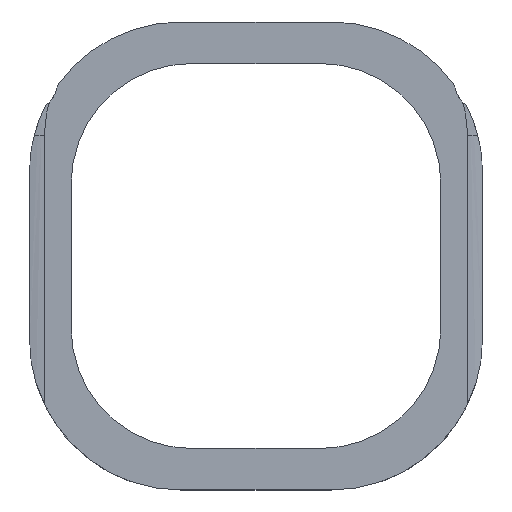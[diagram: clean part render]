
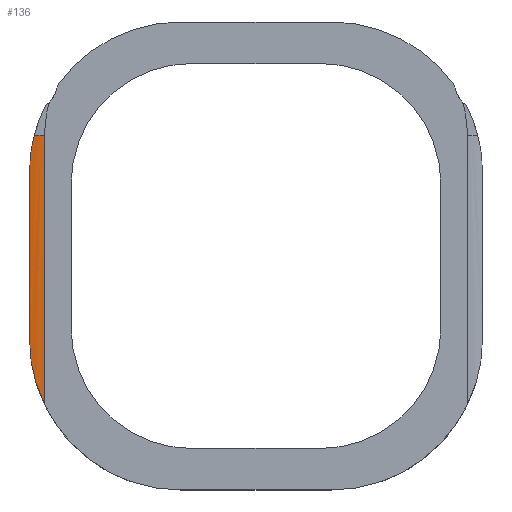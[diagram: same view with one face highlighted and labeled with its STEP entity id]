
A CAD part, top view. The second image highlights one B-rep face of the part: STEP entity #136.
In plain terms, the highlighted cylindrical face has radius 11 mm (diameter 22 mm), a partial arc.
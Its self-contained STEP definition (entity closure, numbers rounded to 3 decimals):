
#21 = EDGE_CURVE('',#22,#24,#26,.T.);
#22 = VERTEX_POINT('',#23);
#23 = CARTESIAN_POINT('',(-30.,9.,27.317));
#24 = VERTEX_POINT('',#25);
#25 = CARTESIAN_POINT('',(-30.,31.,27.317));
#26 = SURFACE_CURVE('',#27,(#31,#43),.PCURVE_S1.);
#27 = LINE('',#28,#29);
#28 = CARTESIAN_POINT('',(-30.,-36.,27.317));
#29 = VECTOR('',#30,1.);
#30 = DIRECTION('',(0.,1.,0.));
#31 = PCURVE('',#32,#37);
#32 = PLANE('',#33);
#33 = AXIS2_PLACEMENT_3D('',#34,#35,#36);
#34 = CARTESIAN_POINT('',(-30.,-11.,26.3));
#35 = DIRECTION('',(1.,0.,0.));
#36 = DIRECTION('',(0.,0.,1.));
#37 = DEFINITIONAL_REPRESENTATION('',(#38),#42);
#38 = LINE('',#39,#40);
#39 = CARTESIAN_POINT('',(1.017,25.));
#40 = VECTOR('',#41,1.);
#41 = DIRECTION('',(0.,-1.));
#42 = ( GEOMETRIC_REPRESENTATION_CONTEXT(2) 
PARAMETRIC_REPRESENTATION_CONTEXT() REPRESENTATION_CONTEXT('2D SPACE',''
  ) );
#43 = PCURVE('',#44,#49);
#44 = CYLINDRICAL_SURFACE('',#45,11.);
#45 = AXIS2_PLACEMENT_3D('',#46,#47,#48);
#46 = CARTESIAN_POINT('',(-28.,-36.,16.5));
#47 = DIRECTION('',(0.,1.,0.));
#48 = DIRECTION('',(0.,-0.,1.));
#49 = DEFINITIONAL_REPRESENTATION('',(#50),#53);
#50 = B_SPLINE_CURVE_WITH_KNOTS('',1,(#51,#52),.UNSPECIFIED.,.F.,.F.,(2,
    2),(42.8,69.2),.PIECEWISE_BEZIER_KNOTS.);
#51 = CARTESIAN_POINT('',(6.1,42.8));
#52 = CARTESIAN_POINT('',(6.1,69.2));
#53 = ( GEOMETRIC_REPRESENTATION_CONTEXT(2) 
PARAMETRIC_REPRESENTATION_CONTEXT() REPRESENTATION_CONTEXT('2D SPACE',''
  ) );
#71 = CYLINDRICAL_SURFACE('',#72,20.);
#72 = AXIS2_PLACEMENT_3D('',#73,#74,#75);
#73 = CARTESIAN_POINT('',(-10.,9.,26.3));
#74 = DIRECTION('',(0.,0.,1.));
#75 = DIRECTION('',(-1.,-0.,0.));
#125 = CYLINDRICAL_SURFACE('',#126,20.);
#126 = AXIS2_PLACEMENT_3D('',#127,#128,#129);
#127 = CARTESIAN_POINT('',(-10.,31.,26.3));
#128 = DIRECTION('',(0.,0.,1.));
#129 = DIRECTION('',(-1.,-0.,0.));
#136 = ADVANCED_FACE('',(#137),#44,.T.);
#137 = FACE_BOUND('',#138,.T.);
#138 = EDGE_LOOP('',(#139,#168,#210,#211,#267));
#139 = ORIENTED_EDGE('',*,*,#140,.T.);
#140 = EDGE_CURVE('',#141,#143,#145,.T.);
#141 = VERTEX_POINT('',#142);
#142 = CARTESIAN_POINT('',(-28.,36.,27.5));
#143 = VERTEX_POINT('',#144);
#144 = CARTESIAN_POINT('',(-29.365,36.,27.415));
#145 = SURFACE_CURVE('',#146,(#151,#157),.PCURVE_S1.);
#146 = CIRCLE('',#147,11.);
#147 = AXIS2_PLACEMENT_3D('',#148,#149,#150);
#148 = CARTESIAN_POINT('',(-28.,36.,16.5));
#149 = DIRECTION('',(0.,-1.,0.));
#150 = DIRECTION('',(0.,0.,1.));
#151 = PCURVE('',#44,#152);
#152 = DEFINITIONAL_REPRESENTATION('',(#153),#156);
#153 = B_SPLINE_CURVE_WITH_KNOTS('',1,(#154,#155),.UNSPECIFIED.,.F.,.F.,
  (2,2),(0.,1.571),.PIECEWISE_BEZIER_KNOTS.);
#154 = CARTESIAN_POINT('',(6.283,72.));
#155 = CARTESIAN_POINT('',(4.712,72.));
#156 = ( GEOMETRIC_REPRESENTATION_CONTEXT(2) 
PARAMETRIC_REPRESENTATION_CONTEXT() REPRESENTATION_CONTEXT('2D SPACE',''
  ) );
#157 = PCURVE('',#158,#163);
#158 = TOROIDAL_SURFACE('',#159,16.,11.);
#159 = AXIS2_PLACEMENT_3D('',#160,#161,#162);
#160 = CARTESIAN_POINT('',(-12.,36.,16.5));
#161 = DIRECTION('',(-0.,-0.,-1.));
#162 = DIRECTION('',(-1.,0.,0.));
#163 = DEFINITIONAL_REPRESENTATION('',(#164),#167);
#164 = B_SPLINE_CURVE_WITH_KNOTS('',1,(#165,#166),.UNSPECIFIED.,.F.,.F.,
  (2,2),(0.,1.571),.PIECEWISE_BEZIER_KNOTS.);
#165 = CARTESIAN_POINT('',(0.,4.712));
#166 = CARTESIAN_POINT('',(0.,6.283));
#167 = ( GEOMETRIC_REPRESENTATION_CONTEXT(2) 
PARAMETRIC_REPRESENTATION_CONTEXT() REPRESENTATION_CONTEXT('2D SPACE',''
  ) );
#168 = ORIENTED_EDGE('',*,*,#169,.F.);
#169 = EDGE_CURVE('',#24,#143,#170,.T.);
#170 = SURFACE_CURVE('',#171,(#182,#196),.PCURVE_S1.);
#171 = B_SPLINE_CURVE_WITH_KNOTS('',5,(#172,#173,#174,#175,#176,#177,
    #178,#179,#180,#181),.UNSPECIFIED.,.F.,.F.,(6,4,6),(0.,
    0.539,1.),.UNSPECIFIED.);
#172 = CARTESIAN_POINT('',(-30.,31.,27.317));
#173 = CARTESIAN_POINT('',(-30.,31.542,27.317));
#174 = CARTESIAN_POINT('',(-29.982,32.084,
    27.32));
#175 = CARTESIAN_POINT('',(-29.945,32.626,
    27.327));
#176 = CARTESIAN_POINT('',(-29.89,33.167,
    27.337));
#177 = CARTESIAN_POINT('',(-29.753,34.168,
    27.36));
#178 = CARTESIAN_POINT('',(-29.677,34.628,
    27.372));
#179 = CARTESIAN_POINT('',(-29.586,35.087,
    27.386));
#180 = CARTESIAN_POINT('',(-29.483,35.544,
    27.4));
#181 = CARTESIAN_POINT('',(-29.365,36.,27.415));
#182 = PCURVE('',#44,#183);
#183 = DEFINITIONAL_REPRESENTATION('',(#184),#195);
#184 = B_SPLINE_CURVE_WITH_KNOTS('',5,(#185,#186,#187,#188,#189,#190,
    #191,#192,#193,#194),.UNSPECIFIED.,.F.,.F.,(6,4,6),(0.,
    0.539,1.),.UNSPECIFIED.);
#185 = CARTESIAN_POINT('',(6.1,67.));
#186 = CARTESIAN_POINT('',(6.1,67.542));
#187 = CARTESIAN_POINT('',(6.102,68.084));
#188 = CARTESIAN_POINT('',(6.105,68.626));
#189 = CARTESIAN_POINT('',(6.111,69.167));
#190 = CARTESIAN_POINT('',(6.123,70.168));
#191 = CARTESIAN_POINT('',(6.13,70.628));
#192 = CARTESIAN_POINT('',(6.138,71.087));
#193 = CARTESIAN_POINT('',(6.148,71.544));
#194 = CARTESIAN_POINT('',(6.159,72.));
#195 = ( GEOMETRIC_REPRESENTATION_CONTEXT(2) 
PARAMETRIC_REPRESENTATION_CONTEXT() REPRESENTATION_CONTEXT('2D SPACE',''
  ) );
#196 = PCURVE('',#125,#197);
#197 = DEFINITIONAL_REPRESENTATION('',(#198),#209);
#198 = B_SPLINE_CURVE_WITH_KNOTS('',5,(#199,#200,#201,#202,#203,#204,
    #205,#206,#207,#208),.UNSPECIFIED.,.F.,.F.,(6,4,6),(0.,
    0.539,1.),.UNSPECIFIED.);
#199 = CARTESIAN_POINT('',(6.283,1.017));
#200 = CARTESIAN_POINT('',(6.256,1.017));
#201 = CARTESIAN_POINT('',(6.229,1.02));
#202 = CARTESIAN_POINT('',(6.202,1.027));
#203 = CARTESIAN_POINT('',(6.175,1.037));
#204 = CARTESIAN_POINT('',(6.124,1.06));
#205 = CARTESIAN_POINT('',(6.101,1.072));
#206 = CARTESIAN_POINT('',(6.077,1.086));
#207 = CARTESIAN_POINT('',(6.054,1.1));
#208 = CARTESIAN_POINT('',(6.031,1.115));
#209 = ( GEOMETRIC_REPRESENTATION_CONTEXT(2) 
PARAMETRIC_REPRESENTATION_CONTEXT() REPRESENTATION_CONTEXT('2D SPACE',''
  ) );
#210 = ORIENTED_EDGE('',*,*,#21,.F.);
#211 = ORIENTED_EDGE('',*,*,#212,.T.);
#212 = EDGE_CURVE('',#22,#213,#215,.T.);
#213 = VERTEX_POINT('',#214);
#214 = CARTESIAN_POINT('',(-28.,0.282,27.5));
#215 = SURFACE_CURVE('',#216,(#231,#249),.PCURVE_S1.);
#216 = B_SPLINE_CURVE_WITH_KNOTS('',7,(#217,#218,#219,#220,#221,#222,
    #223,#224,#225,#226,#227,#228,#229,#230),.UNSPECIFIED.,.F.,.F.,(8,6,
    8),(0.,0.304,1.),.UNSPECIFIED.);
#217 = CARTESIAN_POINT('',(-30.,9.,27.317));
#218 = CARTESIAN_POINT('',(-30.,8.615,27.317));
#219 = CARTESIAN_POINT('',(-29.991,8.229,
    27.318));
#220 = CARTESIAN_POINT('',(-29.974,7.844,27.321
    ));
#221 = CARTESIAN_POINT('',(-29.948,7.459,
    27.326));
#222 = CARTESIAN_POINT('',(-29.913,7.074,
    27.332));
#223 = CARTESIAN_POINT('',(-29.87,6.69,27.34
    ));
#224 = CARTESIAN_POINT('',(-29.698,5.428,
    27.369));
#225 = CARTESIAN_POINT('',(-29.533,4.553,27.395
    ));
#226 = CARTESIAN_POINT('',(-29.322,3.683,
    27.425));
#227 = CARTESIAN_POINT('',(-29.064,2.819,
    27.456));
#228 = CARTESIAN_POINT('',(-28.758,1.963,
    27.483));
#229 = CARTESIAN_POINT('',(-28.404,1.117,27.5));
#230 = CARTESIAN_POINT('',(-28.,0.282,27.5));
#231 = PCURVE('',#44,#232);
#232 = DEFINITIONAL_REPRESENTATION('',(#233),#248);
#233 = B_SPLINE_CURVE_WITH_KNOTS('',7,(#234,#235,#236,#237,#238,#239,
    #240,#241,#242,#243,#244,#245,#246,#247),.UNSPECIFIED.,.F.,.F.,(8,6,
    8),(0.,0.304,1.),.UNSPECIFIED.);
#234 = CARTESIAN_POINT('',(6.1,45.));
#235 = CARTESIAN_POINT('',(6.1,44.615));
#236 = CARTESIAN_POINT('',(6.101,44.229));
#237 = CARTESIAN_POINT('',(6.103,43.844));
#238 = CARTESIAN_POINT('',(6.105,43.459));
#239 = CARTESIAN_POINT('',(6.108,43.074));
#240 = CARTESIAN_POINT('',(6.112,42.69));
#241 = CARTESIAN_POINT('',(6.128,41.428));
#242 = CARTESIAN_POINT('',(6.143,40.553));
#243 = CARTESIAN_POINT('',(6.163,39.683));
#244 = CARTESIAN_POINT('',(6.186,38.819));
#245 = CARTESIAN_POINT('',(6.214,37.963));
#246 = CARTESIAN_POINT('',(6.246,37.117));
#247 = CARTESIAN_POINT('',(6.283,36.282));
#248 = ( GEOMETRIC_REPRESENTATION_CONTEXT(2) 
PARAMETRIC_REPRESENTATION_CONTEXT() REPRESENTATION_CONTEXT('2D SPACE',''
  ) );
#249 = PCURVE('',#71,#250);
#250 = DEFINITIONAL_REPRESENTATION('',(#251),#266);
#251 = B_SPLINE_CURVE_WITH_KNOTS('',7,(#252,#253,#254,#255,#256,#257,
    #258,#259,#260,#261,#262,#263,#264,#265),.UNSPECIFIED.,.F.,.F.,(8,6,
    8),(0.,0.304,1.),.UNSPECIFIED.);
#252 = CARTESIAN_POINT('',(0.,1.017));
#253 = CARTESIAN_POINT('',(0.019,1.017));
#254 = CARTESIAN_POINT('',(0.039,1.018));
#255 = CARTESIAN_POINT('',(0.058,1.021));
#256 = CARTESIAN_POINT('',(0.077,1.026));
#257 = CARTESIAN_POINT('',(0.096,1.032));
#258 = CARTESIAN_POINT('',(0.116,1.04));
#259 = CARTESIAN_POINT('',(0.179,1.069));
#260 = CARTESIAN_POINT('',(0.224,1.095));
#261 = CARTESIAN_POINT('',(0.269,1.125));
#262 = CARTESIAN_POINT('',(0.313,1.156));
#263 = CARTESIAN_POINT('',(0.359,1.183));
#264 = CARTESIAN_POINT('',(0.405,1.2));
#265 = CARTESIAN_POINT('',(0.451,1.2));
#266 = ( GEOMETRIC_REPRESENTATION_CONTEXT(2) 
PARAMETRIC_REPRESENTATION_CONTEXT() REPRESENTATION_CONTEXT('2D SPACE',''
  ) );
#267 = ORIENTED_EDGE('',*,*,#268,.T.);
#268 = EDGE_CURVE('',#213,#141,#269,.T.);
#269 = SURFACE_CURVE('',#270,(#274,#281),.PCURVE_S1.);
#270 = LINE('',#271,#272);
#271 = CARTESIAN_POINT('',(-28.,-36.,27.5));
#272 = VECTOR('',#273,1.);
#273 = DIRECTION('',(0.,1.,0.));
#274 = PCURVE('',#44,#275);
#275 = DEFINITIONAL_REPRESENTATION('',(#276),#280);
#276 = LINE('',#277,#278);
#277 = CARTESIAN_POINT('',(6.283,0.));
#278 = VECTOR('',#279,1.);
#279 = DIRECTION('',(-0.,1.));
#280 = ( GEOMETRIC_REPRESENTATION_CONTEXT(2) 
PARAMETRIC_REPRESENTATION_CONTEXT() REPRESENTATION_CONTEXT('2D SPACE',''
  ) );
#281 = PCURVE('',#282,#287);
#282 = PLANE('',#283);
#283 = AXIS2_PLACEMENT_3D('',#284,#285,#286);
#284 = CARTESIAN_POINT('',(-30.,-11.,27.5));
#285 = DIRECTION('',(0.,0.,1.));
#286 = DIRECTION('',(1.,0.,-0.));
#287 = DEFINITIONAL_REPRESENTATION('',(#288),#292);
#288 = LINE('',#289,#290);
#289 = CARTESIAN_POINT('',(2.,-25.));
#290 = VECTOR('',#291,1.);
#291 = DIRECTION('',(0.,1.));
#292 = ( GEOMETRIC_REPRESENTATION_CONTEXT(2) 
PARAMETRIC_REPRESENTATION_CONTEXT() REPRESENTATION_CONTEXT('2D SPACE',''
  ) );
